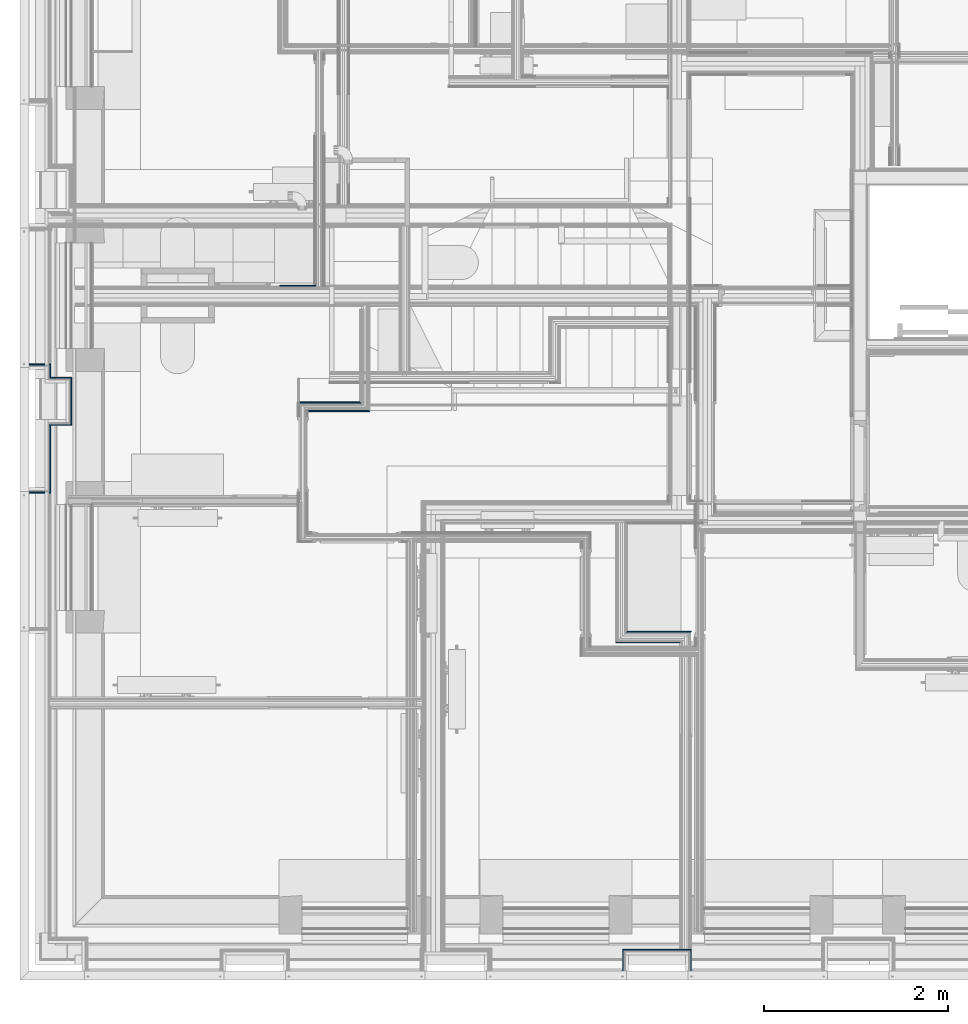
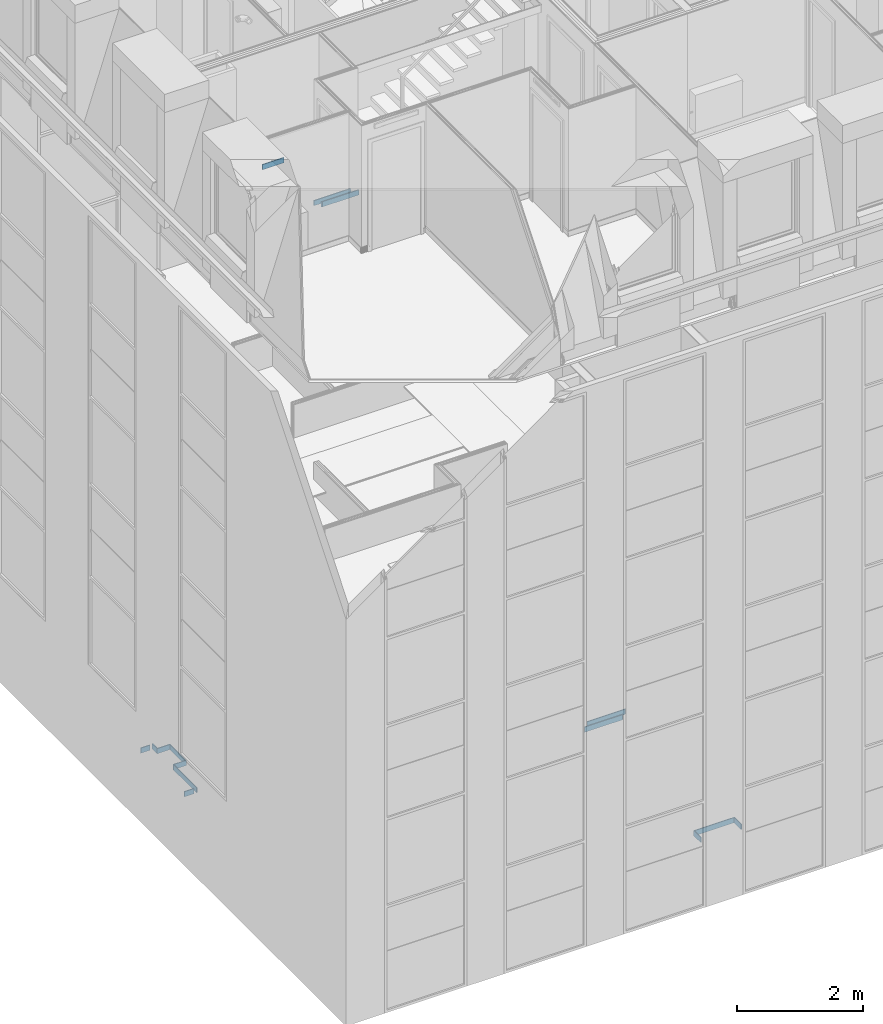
# One storey, part 50 of 169: 16 building element parts, 13 elements without a shape of their own.
"""IFC2X3 building model written with IfcOpenShell, lengths in metres."""

from ifc_helpers import new_model, entity, si_unit, converted_unit, derived_unit, money_unit, direction, frame, frame_2d, origin_with_axes, place, context, subcontext, project, spatial, polyline, rectangle, outline, extrude, material, type_object, element, aggregate, save


model = new_model("IFC2X3")

# Units and contexts
model_context = context("Model", 3, precision=1e-05, world=origin_with_axes(), true_north=direction((0.0, 1.0)))
body_context = subcontext(model_context, "Body", "Model", "MODEL_VIEW", scale=1.0)
ifc_project = project(units=[si_unit("LENGTHUNIT", "METRE"), si_unit("AREAUNIT", "SQUARE_METRE"), si_unit("VOLUMEUNIT", "CUBIC_METRE"), si_unit("ABSORBEDDOSEUNIT", "GRAY"), si_unit("AMOUNTOFSUBSTANCEUNIT", "MOLE"), si_unit("DOSEEQUIVALENTUNIT", "SIEVERT"), si_unit("ELECTRICCAPACITANCEUNIT", "FARAD"), si_unit("ELECTRICCHARGEUNIT", "COULOMB"), si_unit("ELECTRICCONDUCTANCEUNIT", "SIEMENS"), si_unit("ELECTRICCURRENTUNIT", "AMPERE"), si_unit("ELECTRICRESISTANCEUNIT", "OHM"), si_unit("ELECTRICVOLTAGEUNIT", "VOLT"), si_unit("ENERGYUNIT", "JOULE"), si_unit("FORCEUNIT", "NEWTON"), si_unit("FREQUENCYUNIT", "HERTZ"), si_unit("ILLUMINANCEUNIT", "LUX"), si_unit("INDUCTANCEUNIT", "HENRY"), si_unit("LUMINOUSFLUXUNIT", "LUMEN"), si_unit("LUMINOUSINTENSITYUNIT", "CANDELA"), si_unit("MAGNETICFLUXDENSITYUNIT", "TESLA"), si_unit("MAGNETICFLUXUNIT", "WEBER"), si_unit("MASSUNIT", "GRAM"), converted_unit("PLANEANGLEUNIT", "degree", entity("IfcReal", 0.0174532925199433), si_unit("PLANEANGLEUNIT", "RADIAN"), dimensions=[0, 0, 0, 0, 0, 0, 0]), si_unit("POWERUNIT", "WATT"), si_unit("PRESSUREUNIT", "PASCAL"), si_unit("RADIOACTIVITYUNIT", "BECQUEREL"), si_unit("SOLIDANGLEUNIT", "STERADIAN"), si_unit("THERMODYNAMICTEMPERATUREUNIT", "KELVIN"), si_unit("TIMEUNIT", "SECOND"), derived_unit("ACCELERATIONUNIT", [(si_unit("LENGTHUNIT", "METRE"), 1), (si_unit("TIMEUNIT", "SECOND"), -2)]), derived_unit("ANGULARVELOCITYUNIT", [(converted_unit("PLANEANGLEUNIT", "degree", entity("IfcReal", 0.0174532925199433), si_unit("PLANEANGLEUNIT", "RADIAN"), dimensions=[0, 0, 0, 0, 0, 0, 0]), 1), (si_unit("TIMEUNIT", "SECOND"), -1)]), derived_unit("CURVATUREUNIT", [(converted_unit("PLANEANGLEUNIT", "degree", entity("IfcReal", 0.0174532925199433), si_unit("PLANEANGLEUNIT", "RADIAN"), dimensions=[0, 0, 0, 0, 0, 0, 0]), 1), (si_unit("LENGTHUNIT", "METRE"), -1)]), derived_unit("DYNAMICVISCOSITYUNIT", [(si_unit("PRESSUREUNIT", "PASCAL"), 1), (si_unit("TIMEUNIT", "SECOND"), 1)]), derived_unit("HEATFLUXDENSITYUNIT", [(si_unit("POWERUNIT", "WATT"), 1), (si_unit("LENGTHUNIT", "METRE"), -2)]), derived_unit("HEATINGVALUEUNIT", [(si_unit("ENERGYUNIT", "JOULE"), 1), (si_unit("MASSUNIT", "GRAM"), -1)]), derived_unit("INTEGERCOUNTRATEUNIT", [(si_unit("TIMEUNIT", "SECOND"), -1)]), derived_unit("IONCONCENTRATIONUNIT", [(si_unit("MASSUNIT", "GRAM"), 1), (si_unit("VOLUMEUNIT", "CUBIC_METRE"), -1)]), derived_unit("ISOTHERMALMOISTURECAPACITYUNIT", [(si_unit("VOLUMEUNIT", "CUBIC_METRE"), 1), (si_unit("MASSUNIT", "GRAM"), -1)]), derived_unit("KINEMATICVISCOSITYUNIT", [(si_unit("AREAUNIT", "SQUARE_METRE"), 1), (si_unit("TIMEUNIT", "SECOND"), -1)]), derived_unit("LINEARFORCEUNIT", [(si_unit("FORCEUNIT", "NEWTON"), 1), (si_unit("LENGTHUNIT", "METRE"), -1)]), derived_unit("LINEARMOMENTUNIT", [(si_unit("FORCEUNIT", "NEWTON"), 1), (si_unit("LENGTHUNIT", "METRE"), -1)]), derived_unit("LINEARSTIFFNESSUNIT", [(si_unit("FORCEUNIT", "NEWTON"), 1), (si_unit("LENGTHUNIT", "METRE"), -1)]), derived_unit("LINEARVELOCITYUNIT", [(si_unit("LENGTHUNIT", "METRE"), 1), (si_unit("TIMEUNIT", "SECOND"), -1)]), derived_unit("LUMINOUSINTENSITYDISTRIBUTIONUNIT", [(si_unit("LUMINOUSINTENSITYUNIT", "CANDELA"), 1), (si_unit("LUMINOUSFLUXUNIT", "LUMEN"), -1)]), derived_unit("MASSDENSITYUNIT", [(si_unit("MASSUNIT", "GRAM"), 1), (si_unit("VOLUMEUNIT", "CUBIC_METRE"), -1)]), derived_unit("MASSFLOWRATEUNIT", [(si_unit("MASSUNIT", "GRAM"), 1), (si_unit("TIMEUNIT", "SECOND"), -1)]), derived_unit("MASSPERLENGTHUNIT", [(si_unit("MASSUNIT", "GRAM"), 1), (si_unit("LENGTHUNIT", "METRE"), -1)]), derived_unit("MODULUSOFELASTICITYUNIT", [(si_unit("FORCEUNIT", "NEWTON"), 1), (si_unit("AREAUNIT", "SQUARE_METRE"), -1)]), derived_unit("MODULUSOFLINEARSUBGRADEREACTIONUNIT", [(si_unit("FORCEUNIT", "NEWTON"), 1), (si_unit("LENGTHUNIT", "METRE"), -2)]), derived_unit("MODULUSOFROTATIONALSUBGRADEREACTIONUNIT", [(si_unit("FORCEUNIT", "NEWTON"), 1), (si_unit("LENGTHUNIT", "METRE"), 1)]), derived_unit("MODULUSOFSUBGRADEREACTIONUNIT", [(si_unit("FORCEUNIT", "NEWTON"), 1), (si_unit("VOLUMEUNIT", "CUBIC_METRE"), -1)]), derived_unit("MOISTUREDIFFUSIVITYUNIT", [(si_unit("VOLUMEUNIT", "CUBIC_METRE"), 1), (si_unit("TIMEUNIT", "SECOND"), -1)]), derived_unit("MOLECULARWEIGHTUNIT", [(si_unit("MASSUNIT", "GRAM"), 1), (si_unit("AMOUNTOFSUBSTANCEUNIT", "MOLE"), -1)]), derived_unit("PLANARFORCEUNIT", [(si_unit("FORCEUNIT", "NEWTON"), 1), (si_unit("LENGTHUNIT", "METRE"), -2)]), derived_unit("ROTATIONALFREQUENCYUNIT", [(si_unit("TIMEUNIT", "SECOND"), -1)]), derived_unit("ROTATIONALMASSUNIT", [(si_unit("MASSUNIT", "GRAM"), 1), (si_unit("LENGTHUNIT", "METRE"), 2)]), derived_unit("ROTATIONALSTIFFNESSUNIT", [(si_unit("FORCEUNIT", "NEWTON"), 1), (si_unit("LENGTHUNIT", "METRE"), 1), (converted_unit("PLANEANGLEUNIT", "degree", entity("IfcReal", 0.0174532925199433), si_unit("PLANEANGLEUNIT", "RADIAN"), dimensions=[0, 0, 0, 0, 0, 0, 0]), -1)]), derived_unit("SECTIONAREAINTEGRALUNIT", [(si_unit("LENGTHUNIT", "METRE"), 5)]), derived_unit("SECTIONMODULUSUNIT", [(si_unit("LENGTHUNIT", "METRE"), 3)]), derived_unit("SHEARMODULUSUNIT", [(si_unit("FORCEUNIT", "NEWTON"), 1), (si_unit("AREAUNIT", "SQUARE_METRE"), -1)]), derived_unit("SOUNDPOWERUNIT", [(si_unit("ENERGYUNIT", "JOULE"), 1), (si_unit("TIMEUNIT", "SECOND"), -1)]), derived_unit("SPECIFICHEATCAPACITYUNIT", [(si_unit("FORCEUNIT", "NEWTON"), 1), (si_unit("MASSUNIT", "GRAM"), -1), (si_unit("THERMODYNAMICTEMPERATUREUNIT", "KELVIN"), -1)]), derived_unit("TEMPERATUREGRADIENTUNIT", [(si_unit("THERMODYNAMICTEMPERATUREUNIT", "KELVIN"), 1), (si_unit("LENGTHUNIT", "METRE"), -1)]), derived_unit("THERMALADMITTANCEUNIT", [(si_unit("POWERUNIT", "WATT"), 1), (si_unit("AREAUNIT", "SQUARE_METRE"), -1), (si_unit("THERMODYNAMICTEMPERATUREUNIT", "KELVIN"), -1)]), derived_unit("THERMALCONDUCTANCEUNIT", [(si_unit("POWERUNIT", "WATT"), 1), (si_unit("LENGTHUNIT", "METRE"), -1), (si_unit("THERMODYNAMICTEMPERATUREUNIT", "KELVIN"), -1)]), derived_unit("THERMALEXPANSIONCOEFFICIENTUNIT", [(si_unit("THERMODYNAMICTEMPERATUREUNIT", "KELVIN"), -1)]), derived_unit("THERMALRESISTANCEUNIT", [(si_unit("AREAUNIT", "SQUARE_METRE"), 1), (si_unit("POWERUNIT", "WATT"), -1)]), derived_unit("THERMALTRANSMITTANCEUNIT", [(si_unit("POWERUNIT", "WATT"), 1), (si_unit("AREAUNIT", "SQUARE_METRE"), -1), (si_unit("THERMODYNAMICTEMPERATUREUNIT", "KELVIN"), -1)]), derived_unit("TORQUEUNIT", [(si_unit("FORCEUNIT", "NEWTON"), 1), (si_unit("LENGTHUNIT", "METRE"), 1)]), derived_unit("VAPORPERMEABILITYUNIT", [(si_unit("MASSUNIT", "GRAM"), 1), (si_unit("TIMEUNIT", "SECOND"), -1)]), derived_unit("VOLUMETRICFLOWRATEUNIT", [(si_unit("VOLUMEUNIT", "CUBIC_METRE"), 1), (si_unit("TIMEUNIT", "SECOND"), -1)]), derived_unit("WARPINGCONSTANTUNIT", [(si_unit("LENGTHUNIT", "METRE"), 6)]), derived_unit("WARPINGMOMENTUNIT", [(si_unit("FORCEUNIT", "NEWTON"), 1), (si_unit("LENGTHUNIT", "METRE"), 2)]), money_unit("GBP")], contexts=[model_context])

# Site, building, storey
site_placement = place(None, origin_with_axes())
site = spatial("IfcSite", under=ifc_project, at=site_placement, Name="Site", CompositionType="ELEMENT")
building_placement = place(site_placement, origin_with_axes())
building = spatial("IfcBuilding", under=site, at=building_placement, Name="Building01", CompositionType="ELEMENT")
storey_placement = place(building_placement, frame((0.0, 0.0, 5.15), z_axis=(0.0, 0.0, 1.0), x_axis=(1.0, 0.0, 0.0)))
storey = spatial("IfcBuildingStorey", under=building, at=storey_placement, Name="1F", CompositionType="ELEMENT", Elevation=5.15)

# Wall, building element part
wall_type_1 = type_object("IfcWallType", Name="SHE_A-Walls_Type06d_ExternalWallInsulation_48mm", PredefinedType="NOTDEFINED")
wall_1_placement = place(storey_placement, frame((6.623, 0.1, 0.0), z_axis=(0.0, 0.0, 1.0), x_axis=(0.0, 1.0, 0.0)))
wall_1 = element("IfcWall", 1, at=wall_1_placement, inside=storey, type_object=wall_type_1, Name="6D", ObjectType="SHE_A-Walls_Type06d_ExternalWallInsulation_48mm")
ifc_material = material(Name="A_BSUK_Walls_Timber")
building_element_part_1_placement = place(wall_1_placement, origin_with_axes())
building_element_part_1 = element("IfcBuildingElementPart", 2, at=building_element_part_1_placement, material=ifc_material, Name="3", context=body_context, shape_type="SweptSolid", body=[
    extrude(outline(polyline([(0.233, 0.063), (0.0, 0.063), (0.0, 0.048), (0.218, 0.048), (0.233, 0.063)])), frame((0.0, 0.0, 0.015), z_axis=(0.0, 0.0, 1.0), x_axis=(1.0, 0.0, 0.0)), (0.0, 0.0, 1.0), 0.1),
])
aggregate(wall_1, [building_element_part_1])

wall_2_placement = place(storey_placement, frame((7.247, 0.27, 0.0), z_axis=(0.0, 0.0, 1.0), x_axis=(0.0, -1.0, 0.0)))
wall_2 = element("IfcWall", 3, at=wall_2_placement, inside=storey, type_object=wall_type_1, Name="6D", ObjectType="SHE_A-Walls_Type06d_ExternalWallInsulation_48mm")
building_element_part_2_placement = place(wall_2_placement, origin_with_axes())
building_element_part_2 = element("IfcBuildingElementPart", 4, at=building_element_part_2_placement, material=ifc_material, Name="3", context=body_context, shape_type="SweptSolid", body=[
    extrude(outline(polyline([(-0.063, 0.063), (-0.048, 0.048), (0.17, 0.048), (0.17, 0.063), (-0.063, 0.063)])), frame((0.0, 0.0, 0.015), z_axis=(0.0, 0.0, 1.0), x_axis=(1.0, 0.0, 0.0)), (0.0, 0.0, 1.0), 0.1),
])
aggregate(wall_2, [building_element_part_2])

# Wall, building element parts
wall_type_2 = type_object("IfcWallType", Name="SHE_A-Walls_Type05a_Partition_95mm_tall", PredefinedType="NOTDEFINED")
wall_3_placement = place(storey_placement, frame((7.235, 3.72, 0.0), z_axis=(0.0, 0.0, 1.0), x_axis=(-1.0, 0.0, 0.0)))
wall_3 = element("IfcWall", 5, at=wall_3_placement, inside=storey, type_object=wall_type_2, Name="5A", ObjectType="SHE_A-Walls_Type05a_Partition_95mm_tall")
placement_1 = place(wall_3_placement, origin_with_axes())
building_element_part_3 = element("IfcBuildingElementPart", 6, at=placement_1, material=ifc_material, Name="1", context=body_context, shape_type="SweptSolid", body=[
    extrude(outline(polyline([(0.64, -0.06), (-0.06, -0.06), (-0.075, -0.075), (0.625, -0.075), (0.64, -0.06)])), frame((0.0, 0.0, 0.015), z_axis=(0.0, 0.0, 1.0), x_axis=(1.0, 0.0, 0.0)), (0.0, 0.0, 1.0), 0.1),
])
building_element_part_4 = element("IfcBuildingElementPart", 7, at=placement_1, material=ifc_material, Name="7", context=body_context, shape_type="SweptSolid", body=[
    extrude(outline(polyline([(0.75, 0.05), (0.05, 0.05), (0.035, 0.035), (0.735, 0.035), (0.75, 0.05)])), frame((0.0, 0.0, 0.015), z_axis=(0.0, 0.0, 1.0), x_axis=(1.0, 0.0, 0.0)), (0.0, 0.0, 1.0), 0.1),
])
aggregate(wall_3, [building_element_part_3, building_element_part_4])

# Wall, building element part
wall_4_placement = place(storey_placement, frame((6.587, 0.27, 0.0), z_axis=(0.0, 0.0, 1.0), x_axis=(1.0, 0.0, 0.0)))
wall_4 = element("IfcWall", 8, at=wall_4_placement, inside=storey, type_object=wall_type_1, Name="6D", ObjectType="SHE_A-Walls_Type06d_ExternalWallInsulation_48mm")
building_element_part_5_placement = place(wall_4_placement, origin_with_axes())
building_element_part_5 = element("IfcBuildingElementPart", 9, at=building_element_part_5_placement, material=ifc_material, Name="3", context=body_context, shape_type="SweptSolid", body=[
    extrude(outline(polyline([(0.723, 0.063), (-0.027, 0.063), (-0.012, 0.048), (0.708, 0.048), (0.723, 0.063)])), frame((0.0, 0.0, 0.015), z_axis=(0.0, 0.0, 1.0), x_axis=(1.0, 0.0, 0.0)), (0.0, 0.0, 1.0), 0.1),
])
aggregate(wall_4, [building_element_part_5])

wall_5_placement = place(storey_placement, frame((0.27, 6.68018, 0.0), z_axis=(0.0, 0.0, 1.0), x_axis=(0.0, -1.0, 0.0)))
wall_5 = element("IfcWall", 10, at=wall_5_placement, inside=storey, type_object=wall_type_1, Name="6D", ObjectType="SHE_A-Walls_Type06d_ExternalWallInsulation_48mm")
building_element_part_6_placement = place(wall_5_placement, origin_with_axes())
building_element_part_6 = element("IfcBuildingElementPart", 11, at=building_element_part_6_placement, material=ifc_material, Name="3", context=body_context, shape_type="SweptSolid", body=[
    extrude(outline(polyline([(0.11718, 0.063), (-0.027, 0.063), (-0.027, 0.048), (0.13218, 0.048), (0.11718, 0.063)])), frame((0.0, 0.0, 0.015), z_axis=(0.0, 0.0, 1.0), x_axis=(1.0, 0.0, 0.0)), (0.0, 0.0, 1.0), 0.1),
])
aggregate(wall_5, [building_element_part_6])

wall_6_placement = place(storey_placement, frame((0.27, 6.64418, 0.0), z_axis=(0.0, 0.0, 1.0), x_axis=(-1.0, 0.0, 0.0)))
wall_6 = element("IfcWall", 12, at=wall_6_placement, inside=storey, type_object=wall_type_1, Name="6D", ObjectType="SHE_A-Walls_Type06d_ExternalWallInsulation_48mm")
building_element_part_7_placement = place(wall_6_placement, origin_with_axes())
building_element_part_7 = element("IfcBuildingElementPart", 13, at=building_element_part_7_placement, material=ifc_material, Name="1", context=body_context, shape_type="SweptSolid", body=[
    extrude(rectangle(XDim=0.17, YDim=0.015, at=frame_2d((0.085, -0.0555), x_axis=(1.0, 0.0))), frame((0.0, 0.0, 0.015), z_axis=(0.0, 0.0, 1.0), x_axis=(1.0, 0.0, 0.0)), (0.0, 0.0, 1.0), 0.1),
])
aggregate(wall_6, [building_element_part_7])

wall_7_placement = place(storey_placement, frame((0.27, 6.5, 0.0), z_axis=(0.0, 0.0, 1.0), x_axis=(1.0, 0.0, 0.0)))
wall_7 = element("IfcWall", 14, at=wall_7_placement, inside=storey, type_object=wall_type_1, Name="6D", ObjectType="SHE_A-Walls_Type06d_ExternalWallInsulation_48mm")
building_element_part_8_placement = place(wall_7_placement, origin_with_axes())
building_element_part_8 = element("IfcBuildingElementPart", 15, at=building_element_part_8_placement, material=ifc_material, Name="3", context=body_context, shape_type="SweptSolid", body=[
    extrude(outline(polyline([(0.293, 0.063), (0.063, 0.063), (0.048, 0.048), (0.278, 0.048), (0.293, 0.063)])), frame((0.0, 0.0, 0.015), z_axis=(0.0, 0.0, 1.0), x_axis=(1.0, 0.0, 0.0)), (0.0, 0.0, 1.0), 0.1),
])
aggregate(wall_7, [building_element_part_8])

wall_8_placement = place(storey_placement, frame((0.5, 6.536, 0.0), z_axis=(0.0, 0.0, 1.0), x_axis=(0.0, -1.0, 0.0)))
wall_8 = element("IfcWall", 16, at=wall_8_placement, inside=storey, type_object=wall_type_1, Name="6D", ObjectType="SHE_A-Walls_Type06d_ExternalWallInsulation_48mm")
building_element_part_9_placement = place(wall_8_placement, origin_with_axes())
building_element_part_9 = element("IfcBuildingElementPart", 17, at=building_element_part_9_placement, material=ifc_material, Name="3", context=body_context, shape_type="SweptSolid", body=[
    extrude(outline(polyline([(0.499, 0.063), (-0.027, 0.063), (-0.012, 0.048), (0.484, 0.048), (0.499, 0.063)])), frame((0.0, 0.0, 0.015), z_axis=(0.0, 0.0, 1.0), x_axis=(1.0, 0.0, 0.0)), (0.0, 0.0, 1.0), 0.1),
])
aggregate(wall_8, [building_element_part_9])

wall_9_placement = place(storey_placement, frame((0.5, 6.1, 0.0), z_axis=(0.0, 0.0, 1.0), x_axis=(-1.0, 0.0, 0.0)))
wall_9 = element("IfcWall", 18, at=wall_9_placement, inside=storey, type_object=wall_type_1, Name="6D", ObjectType="SHE_A-Walls_Type06d_ExternalWallInsulation_48mm")
building_element_part_10_placement = place(wall_9_placement, origin_with_axes())
building_element_part_10 = element("IfcBuildingElementPart", 19, at=building_element_part_10_placement, material=ifc_material, Name="3", context=body_context, shape_type="SweptSolid", body=[
    extrude(outline(polyline([(0.182, 0.063), (-0.063, 0.063), (-0.048, 0.048), (0.182, 0.048), (0.182, 0.063)])), frame((0.0, 0.0, 0.015), z_axis=(0.0, 0.0, 1.0), x_axis=(1.0, 0.0, 0.0)), (0.0, 0.0, 1.0), 0.1),
])
aggregate(wall_9, [building_element_part_10])

wall_10_placement = place(storey_placement, frame((0.27, 6.1, 0.0), z_axis=(0.0, 0.0, 1.0), x_axis=(0.0, -1.0, 0.0)))
wall_10 = element("IfcWall", 20, at=wall_10_placement, inside=storey, type_object=wall_type_1, Name="6D", ObjectType="SHE_A-Walls_Type06d_ExternalWallInsulation_48mm")
building_element_part_11_placement = place(wall_10_placement, origin_with_axes())
building_element_part_11 = element("IfcBuildingElementPart", 21, at=building_element_part_11_placement, material=ifc_material, Name="3", context=body_context, shape_type="SweptSolid", body=[
    extrude(rectangle(XDim=0.737, YDim=0.015, at=frame_2d((0.4315, 0.0555), x_axis=(-1.0, 0.0))), frame((0.0, 0.0, 0.015), z_axis=(0.0, 0.0, 1.0), x_axis=(1.0, 0.0, 0.0)), (0.0, 0.0, 1.0), 0.1),
])
aggregate(wall_10, [building_element_part_11])

wall_11_placement = place(storey_placement, frame((0.27, 5.363, 0.0), z_axis=(0.0, 0.0, 1.0), x_axis=(-1.0, 0.0, 0.0)))
wall_11 = element("IfcWall", 22, at=wall_11_placement, inside=storey, type_object=wall_type_1, Name="6D", ObjectType="SHE_A-Walls_Type06d_ExternalWallInsulation_48mm")
building_element_part_12_placement = place(wall_11_placement, origin_with_axes())
building_element_part_12 = element("IfcBuildingElementPart", 23, at=building_element_part_12_placement, material=ifc_material, Name="3", context=body_context, shape_type="SweptSolid", body=[
    extrude(rectangle(XDim=0.17, YDim=0.015, at=frame_2d((0.085, 0.0555), x_axis=(1.0, 0.0))), frame((0.0, 0.0, 0.015), z_axis=(0.0, 0.0, 1.0), x_axis=(1.0, 0.0, 0.0)), (0.0, 0.0, 1.0), 0.1),
])
aggregate(wall_11, [building_element_part_12])

# Wall, building element parts
wall_type_3 = type_object("IfcWallType", Name="SHE_A-Walls_Type05b_Partition_80mm", PredefinedType="NOTDEFINED")
wall_12_placement = place(storey_placement, frame((3.767111, 6.227939, 9.83), z_axis=(0.0, 0.0, 1.0), x_axis=(-1.0, 0.0, 0.0)))
wall_12 = element("IfcWall", 24, at=wall_12_placement, inside=storey, type_object=wall_type_3, Name="5B", ObjectType="SHE_A-Walls_Type05b_Partition_80mm")
placement_2 = place(wall_12_placement, origin_with_axes())
building_element_part_13 = element("IfcBuildingElementPart", 25, at=placement_2, material=ifc_material, Name="1", context=body_context, shape_type="SweptSolid", body=[
    extrude(outline(polyline([(0.052, -0.052), (0.067, -0.067), (0.727135, -0.067), (0.727135, -0.052), (0.052, -0.052)])), frame((0.0, 0.0, 0.015), z_axis=(0.0, 0.0, 1.0), x_axis=(1.0, 0.0, 0.0)), (0.0, 0.0, 1.0), 0.1),
])
building_element_part_14 = element("IfcBuildingElementPart", 26, at=placement_2, material=ifc_material, Name="7", context=body_context, shape_type="SweptSolid", body=[
    extrude(outline(polyline([(0.632135, 0.043), (-0.043, 0.043), (-0.028, 0.028), (0.647135, 0.028), (0.632135, 0.043)])), frame((0.0, 0.0, 0.015), z_axis=(0.0, 0.0, 1.0), x_axis=(1.0, 0.0, 0.0)), (0.0, 0.0, 1.0), 0.1),
])
aggregate(wall_12, [building_element_part_13, building_element_part_14])

wall_type_4 = type_object("IfcWallType", Name="SHE_A-Walls_Type01d_Partywall_200mm_twin", PredefinedType="NOTDEFINED")
wall_13_placement = place(storey_placement, frame((9.06, 7.425061, 9.83), z_axis=(0.0, 0.0, 1.0), x_axis=(-1.0, 0.0, 0.0)))
wall_13 = element("IfcWall", 27, at=wall_13_placement, inside=storey, type_object=wall_type_4, Name="1D", ObjectType="SHE_A-Walls_Type01d_Partywall_200mm_twin")
placement_3 = place(wall_13_placement, origin_with_axes())
building_element_part_15 = element("IfcBuildingElementPart", 28, at=placement_3, material=ifc_material, Name="1", context=body_context, shape_type="SweptSolid", body=[
    extrude(rectangle(XDim=0.394909, YDim=0.015, at=frame_2d((6.037454, -0.1325), x_axis=(-1.0, 0.0))), frame((0.0, 0.0, 0.015), z_axis=(0.0, 0.0, 1.0), x_axis=(1.0, 0.0, 0.0)), (0.0, 0.0, 1.0), 0.1),
])
building_element_part_16 = element("IfcBuildingElementPart", 29, at=placement_3, material=ifc_material, Name="2", context=body_context, shape_type="SweptSolid", body=[
    extrude(rectangle(XDim=0.394909, YDim=0.015, at=frame_2d((6.037454, -0.1325), x_axis=(-1.0, 0.0))), frame((0.0, 0.0, 0.015), z_axis=(0.0, 0.0, 1.0), x_axis=(1.0, 0.0, 0.0)), (0.0, 0.0, 1.0), 0.1),
])
aggregate(wall_13, [building_element_part_15, building_element_part_16])

save(model, "model.ifc")
